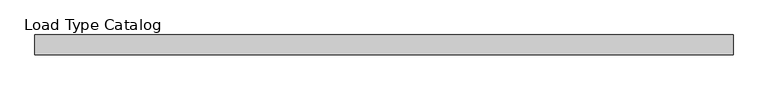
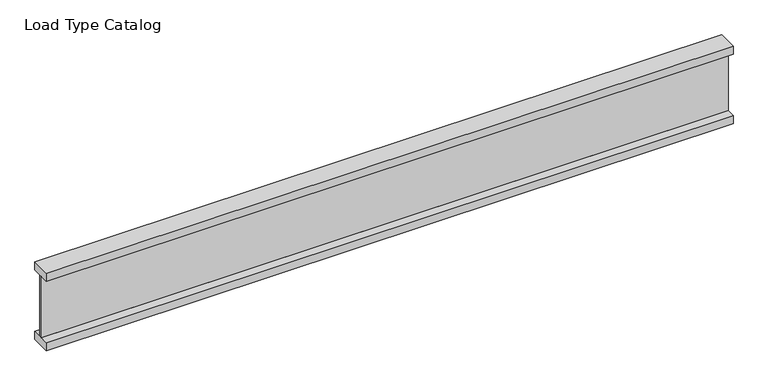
"""IFC4 building model written with IfcOpenShell, lengths in millimetres: beam geometry, Poutre en I_Paille : Load Type Catalog."""

import ifcopenshell
import ifcopenshell.guid

model = None  # the IFC model being written
_history = None  # IfcOwnerHistory: only IFC2X3 demands one
_inside = {}  # id of a spatial element -> (the spatial element, [elements in it])
_under = {}  # id of a project, library or spatial element -> (it, [spatial elements below it])
_declared = {}  # id of a project -> (the project, [libraries it declares])
_typed = {}  # id of a type object -> (the type object, [elements of that type])
_made_of = {}  # id of a material, layer set ... -> (it, [elements and type objects made of it])


def new_model(schema):
    """Start an empty IFC model of exactly this schema.

    Asked for "IFC4X3", IfcOpenShell would pick the latest addendum, in which some entities
    have other attributes; the version numbers below select the first issue.
    IFC2X3 requires an IfcOwnerHistory on every rooted entity: one is made here for all.
    """
    global model, _history
    if schema == "IFC4X3":
        model = ifcopenshell.file(schema_version=(4, 3, 0, 0))
    else:
        model = ifcopenshell.file(schema=schema)
    _inside.clear()
    _under.clear()
    _declared.clear()
    _typed.clear()
    _made_of.clear()
    _history = None
    if model.schema == "IFC2X3":
        org = make("IfcOrganization", Name="unknown")
        user = make(
            "IfcPersonAndOrganization",
            ThePerson=make("IfcPerson", FamilyName="unknown"),
            TheOrganization=org,
        )
        app = make(
            "IfcApplication",
            ApplicationDeveloper=org,
            Version="unknown",
            ApplicationFullName="unknown",
            ApplicationIdentifier="unknown",
        )
        _history = make(
            "IfcOwnerHistory",
            OwningUser=user,
            OwningApplication=app,
            ChangeAction="ADDED",
            CreationDate=0,
        )
    return model


def make(cls, **values):
    """One entity of the class cls with the attributes given. An attribute that is None is left unset."""
    return model.create_entity(
        cls, **{name: value for name, value in values.items() if value is not None}
    )


def rooted(cls, **values):
    """An entity with a GlobalId (a new one), such as an element, a storey or a relation."""
    return make(cls, GlobalId=ifcopenshell.guid.new(), OwnerHistory=_history, **values)


def si_unit(unit_type, name, prefix=None):
    """IfcSIUnit, for example si_unit("LENGTHUNIT", "METRE", prefix="MILLI")."""
    return make("IfcSIUnit", UnitType=unit_type, Prefix=prefix, Name=name)


def assignment(units):
    """IfcUnitAssignment: the units of a project."""
    return None if units is None else make("IfcUnitAssignment", Units=units)


def point(xyz):
    """IfcCartesianPoint."""
    return None if xyz is None else make("IfcCartesianPoint", Coordinates=xyz)


def direction(xyz):
    """IfcDirection."""
    return None if xyz is None else make("IfcDirection", DirectionRatios=xyz)


def frame(location, z_axis=None, x_axis=None):
    """IfcAxis2Placement3D, a coordinate frame: its origin and axes. An axis left out is left unset."""
    return make(
        "IfcAxis2Placement3D",
        Location=point(location),
        Axis=direction(z_axis),
        RefDirection=direction(x_axis),
    )


def origin():
    """The frame at (0, 0, 0) with its axes left unset."""
    return frame((0.0, 0.0, 0.0))


def place(relative_to, where):
    """IfcLocalPlacement: puts the frame where relative to a parent placement (None: the world)."""
    return make(
        "IfcLocalPlacement", PlacementRelTo=relative_to, RelativePlacement=where
    )


def context(
    kind, dimensions, precision=None, world=None, true_north=None, identifier=None
):
    """IfcGeometricRepresentationContext, for example the 3D "Model" context."""
    return make(
        "IfcGeometricRepresentationContext",
        ContextIdentifier=identifier,
        ContextType=kind,
        CoordinateSpaceDimension=dimensions,
        Precision=precision,
        WorldCoordinateSystem=world,
        TrueNorth=true_north,
    )


def project(units=None, contexts=None):
    """IfcProject with its units and contexts."""
    return rooted(
        "IfcProject",
        Name="project",
        RepresentationContexts=contexts,
        UnitsInContext=assignment(units),
    )


def spatial(cls, under=None, at=None, **own):
    """A site, building, storey or space (cls), placed at a placement, below another one or the project."""
    s = rooted(cls, ObjectPlacement=at, **own)
    if under is not None:
        _under.setdefault(under.id(), (under, []))[1].append(s)
    return s


def polyline(points):
    """IfcPolyline through the points."""
    return make("IfcPolyline", Points=[point(p) for p in points])


def outline(outer, holes=None, kind="AREA"):
    """IfcArbitraryClosedProfileDef: a profile drawn as a closed curve; with holes, ...WithVoids."""
    if holes is None:
        return make("IfcArbitraryClosedProfileDef", ProfileType=kind, OuterCurve=outer)
    return make(
        "IfcArbitraryProfileDefWithVoids",
        ProfileType=kind,
        OuterCurve=outer,
        InnerCurves=holes,
    )


def extrude(swept, where, along, depth):
    """IfcExtrudedAreaSolid: the profile swept, set in the frame where, extruded along a direction by depth."""
    return make(
        "IfcExtrudedAreaSolid",
        SweptArea=swept,
        Position=where,
        ExtrudedDirection=direction(along),
        Depth=depth,
    )


def shape(context_of_items, identifier, shape_type, items):
    """IfcShapeRepresentation: the items that make up one representation, for example the "Body"."""
    return make(
        "IfcShapeRepresentation",
        ContextOfItems=context_of_items,
        RepresentationIdentifier=identifier,
        RepresentationType=shape_type,
        Items=items,
    )


def source(mapping_origin, context_of_items, identifier, shape_type, items):
    """IfcRepresentationMap: a shape defined once, which mapped items show again and again."""
    return make(
        "IfcRepresentationMap",
        MappingOrigin=mapping_origin,
        MappedRepresentation=shape(context_of_items, identifier, shape_type, items),
    )


def transform(
    local_origin,
    x_axis=None,
    y_axis=None,
    z_axis=None,
    scale=None,
    scale2=None,
    scale3=None,
    uniform=True,
):
    """IfcCartesianTransformationOperator3D, or its non-uniform kind. x_axis, y_axis, z_axis: its Axis1, 2, 3."""
    if uniform:
        return make(
            "IfcCartesianTransformationOperator3D",
            Axis1=direction(x_axis),
            Axis2=direction(y_axis),
            LocalOrigin=point(local_origin),
            Scale=scale,
            Axis3=direction(z_axis),
        )
    return make(
        "IfcCartesianTransformationOperator3DnonUniform",
        Axis1=direction(x_axis),
        Axis2=direction(y_axis),
        LocalOrigin=point(local_origin),
        Scale=scale,
        Axis3=direction(z_axis),
        Scale2=scale2,
        Scale3=scale3,
    )


def mapped(mapping_source, mapping_target):
    """IfcMappedItem: shows the shape of a source again, moved by a transform."""
    return make(
        "IfcMappedItem", MappingSource=mapping_source, MappingTarget=mapping_target
    )


def made_of(thing, what):
    """Note that an element or type object is made of a material, layer set ...; save() writes the relation."""
    if what is not None:
        _made_of.setdefault(what.id(), (what, []))[1].append(thing)
    return thing


def element(
    cls,
    number,
    at=None,
    inside=None,
    cuts=None,
    type_object=None,
    material=None,
    context=None,
    identifier="Body",
    shape_type=None,
    held_by="IfcProductDefinitionShape",
    body=None,
    shapes=None,
    **own,
):
    """One element of the class cls, such as IfcWall. Its Tag is "e" and its number.

    at: its placement. inside: the storey or other place that contains it. cuts: it is an
    opening in that element (IfcRelVoidsElement). A single representation is given by context,
    identifier, shape_type and body (its items); several are given by shapes. held_by: the class
    of the entity that holds the representations. save() writes the other relations.
    """
    e = rooted(cls, Tag="e%d" % number, ObjectPlacement=at, **own)
    if body is not None:
        shapes = [shape(context, identifier, shape_type, body)]
    if shapes is not None:
        e.Representation = make(held_by, Representations=shapes)
    if inside is not None:
        _inside.setdefault(inside.id(), (inside, []))[1].append(e)
    if cuts is not None:
        rooted(
            "IfcRelVoidsElement", RelatingBuildingElement=cuts, RelatedOpeningElement=e
        )
    if type_object is not None:
        _typed.setdefault(type_object.id(), (type_object, []))[1].append(e)
    return made_of(e, material)


def aggregate(whole, parts):
    """IfcRelAggregates: a whole, such as a stair, and the parts it consists of."""
    return rooted("IfcRelAggregates", RelatingObject=whole, RelatedObjects=parts)


def save(model, path):
    """Write the relations noted so far, then the file.

    IfcRelAggregates (storeys below a building ...), IfcRelContainedInSpatialStructure (elements
    in a storey), IfcRelDefinesByType, IfcRelAssociatesMaterial and IfcRelDeclares: one each for
    every whole, place, type object, material and project.
    """
    for whole, parts in _under.values():
        aggregate(whole, parts)
    for where, things in _inside.values():
        rooted(
            "IfcRelContainedInSpatialStructure",
            RelatedElements=things,
            RelatingStructure=where,
        )
    for kind, things in _typed.values():
        rooted("IfcRelDefinesByType", RelatedObjects=things, RelatingType=kind)
    for what, things in _made_of.values():
        rooted("IfcRelAssociatesMaterial", RelatedObjects=things, RelatingMaterial=what)
    for by, libraries in _declared.values():
        rooted("IfcRelDeclares", RelatingContext=by, RelatedDefinitions=libraries)
    model.write(path)


def load_type_catalog_854ba091(model_context):
    return source(origin(), model_context, "Body", "SweptSolid", [
        extrude(outline(polyline([(1550.0, 44.45), (1550.0, -44.45), (-1550.0, -44.45), (-1550.0, 44.45), (1550.0, 44.45)])), frame((0.0, 0.0, -38.1), z_axis=(0.0, 0.0, 1.0), x_axis=(1.0, 0.0, 0.0)), (0.0, 0.0, 1.0), 38.1),
        extrude(outline(polyline([(1550.0, 44.45), (1550.0, -44.45), (-1550.0, -44.45), (-1550.0, 44.45), (1550.0, 44.45)])), frame((0.0, 0.0, -370.0), z_axis=(0.0, 0.0, 1.0), x_axis=(1.0, 0.0, 0.0)), (0.0, 0.0, 1.0), 38.1),
        extrude(outline(polyline([(5.55625, -331.9), (4.445144, -344.6), (-4.445144, -344.6), (-5.55625, -331.9), (-5.55625, -38.1), (-4.445144, -25.4), (4.445144, -25.4), (5.55625, -38.1), (5.55625, -331.9)])), frame((-1550.0, 0.0, 0.0), z_axis=(1.0, 0.0, 0.0), x_axis=(0.0, 1.0, 0.0)), (0.0, 0.0, 1.0), 3100.0),
    ])


if __name__ == "__main__":
    model = new_model("IFC4")
    model_context = context("Model", 3, world=origin())
    ifc_project = project(units=[si_unit("LENGTHUNIT", "METRE", prefix="MILLI")], contexts=[model_context])
    site = spatial("IfcSite", under=ifc_project)
    building = spatial("IfcBuilding", under=site)
    placement = place(None, origin())
    load_type_catalog_shape = load_type_catalog_854ba091(model_context)
    element("IfcBeam", 1, ObjectType="Poutre en I_Paille : Load Type Catalog", at=placement, inside=building, context=model_context, shape_type="MappedRepresentation", body=[
        mapped(load_type_catalog_shape, transform((0.0, 0.0, 0.0), x_axis=(1.0, 0.0, 0.0), y_axis=(0.0, 1.0, 0.0), z_axis=(0.0, 0.0, 1.0))),
    ])
    save(model, "model.ifc")
